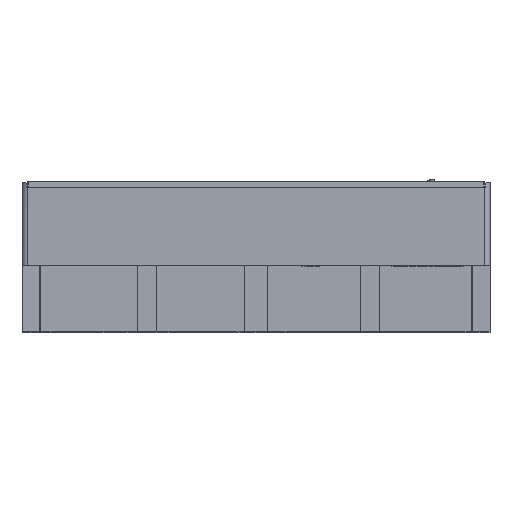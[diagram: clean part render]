
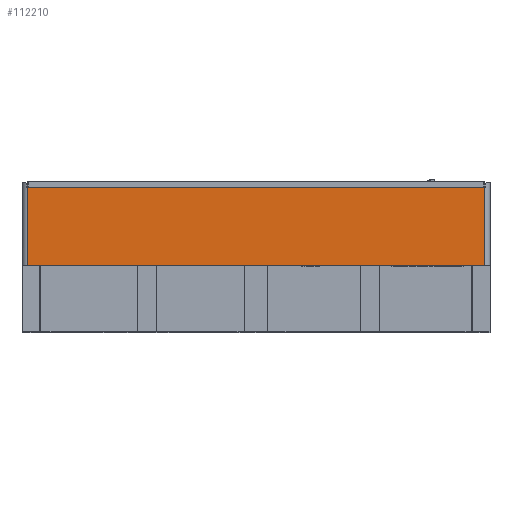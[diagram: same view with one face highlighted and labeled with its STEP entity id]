
A CAD part, top view. The second image highlights one B-rep face of the part: STEP entity #112210.
In plain terms, the highlighted planar face has unit normal (0, 0, 1).
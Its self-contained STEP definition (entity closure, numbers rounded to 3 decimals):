
#2637 = CARTESIAN_POINT ( 'NONE',  ( -116.657, -0.604, 472.5 ) ) ;
#5061 = LINE ( 'NONE', #67037, #99339 ) ;
#7549 = ORIENTED_EDGE ( 'NONE', *, *, #16257, .F. ) ;
#7732 = CARTESIAN_POINT ( 'NONE',  ( 76.343, 31.396, 472.5 ) ) ;
#11905 = DIRECTION ( 'NONE',  ( -1., 0., 0. ) ) ;
#12428 = CARTESIAN_POINT ( 'NONE',  ( -116.157, -0.604, 472.5 ) ) ;
#14651 = ORIENTED_EDGE ( 'NONE', *, *, #26575, .F. ) ;
#16257 = EDGE_CURVE ( 'NONE', #94407, #92541, #90869, .T. ) ;
#21747 = DIRECTION ( 'NONE',  ( 0., 1., 0. ) ) ;
#25587 = VECTOR ( 'NONE', #94091, 1000. ) ;
#26575 = EDGE_CURVE ( 'NONE', #96283, #73530, #52420, .T. ) ;
#27194 = ORIENTED_EDGE ( 'NONE', *, *, #58051, .F. ) ;
#29788 = PLANE ( 'NONE',  #76747 ) ;
#39581 = EDGE_CURVE ( 'NONE', #73530, #94407, #42347, .T. ) ;
#39989 = VECTOR ( 'NONE', #82974, 1000. ) ;
#42347 = LINE ( 'NONE', #60034, #25587 ) ;
#43258 = FACE_OUTER_BOUND ( 'NONE', #104802, .T. ) ;
#46988 = CARTESIAN_POINT ( 'NONE',  ( 76.343, 115.523, 472.5 ) ) ;
#48102 = DIRECTION ( 'NONE',  ( 1., 0., 0. ) ) ;
#51475 = CARTESIAN_POINT ( 'NONE',  ( 76.343, -1.604, 472.5 ) ) ;
#52420 = LINE ( 'NONE', #46988, #39989 ) ;
#58051 = EDGE_CURVE ( 'NONE', #92541, #96283, #5061, .T. ) ;
#60034 = CARTESIAN_POINT ( 'NONE',  ( -19.907, -1.604, 472.5 ) ) ;
#60110 = CARTESIAN_POINT ( 'NONE',  ( -116.157, -1.604, 472.5 ) ) ;
#65715 = CARTESIAN_POINT ( 'NONE',  ( -116.157, 31.396, 472.5 ) ) ;
#67037 = CARTESIAN_POINT ( 'NONE',  ( -19.907, 31.396, 472.5 ) ) ;
#72866 = VECTOR ( 'NONE', #21747, 1000. ) ;
#73530 = VERTEX_POINT ( 'NONE', #51475 ) ;
#76747 = AXIS2_PLACEMENT_3D ( 'NONE', #2637, #99477, #11905 ) ;
#82974 = DIRECTION ( 'NONE',  ( 0., -1., 0. ) ) ;
#90869 = LINE ( 'NONE', #12428, #72866 ) ;
#92541 = VERTEX_POINT ( 'NONE', #65715 ) ;
#94091 = DIRECTION ( 'NONE',  ( -1., 0., 0. ) ) ;
#94407 = VERTEX_POINT ( 'NONE', #60110 ) ;
#96283 = VERTEX_POINT ( 'NONE', #7732 ) ;
#99339 = VECTOR ( 'NONE', #48102, 1000. ) ;
#99477 = DIRECTION ( 'NONE',  ( 0., 0., -1. ) ) ;
#104802 = EDGE_LOOP ( 'NONE', ( #27194, #7549, #107669, #14651 ) ) ;
#107669 = ORIENTED_EDGE ( 'NONE', *, *, #39581, .F. ) ;
#112210 = ADVANCED_FACE ( 'NONE', ( #43258 ), #29788, .F. ) ;
